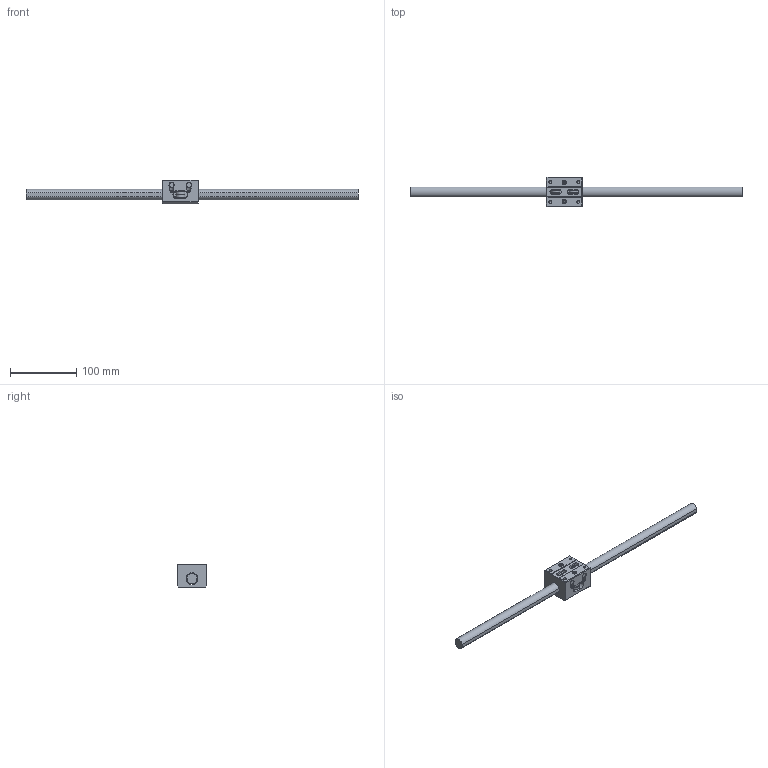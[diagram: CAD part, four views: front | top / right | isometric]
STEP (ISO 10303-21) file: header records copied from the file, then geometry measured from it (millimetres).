
FILE_DESCRIPTION((''),'2;1');
FILE_NAME('D:\製品 (図面)\カタログ用3D\リニアガイド関連\STEP形式\LT\LT16.stp','2010-06-02T16:04:30',('Tsuchiya'),(''),'Autodesk Inventor 10','Autodesk Inventor 10','');
FILE_SCHEMA(('AUTOMOTIVE_DESIGN { 1 0 10303 214 1 1 1 1 }'));
Length unit declared in the file: millimetre
Products named in the file (3): LT16; LT161; LT162
Assembly tree (2 placements, depth 2):
  LT16
    LT161
    LT162
Bounding box: 500 x 45 x 36 mm (x, y, z)
Volume: 159450.6 mm3; surface area: 47752.1 mm2
Topology: 2 solids, 2 shells, 251 faces, 622 edges, 396 vertices
Faces by surface type: bspline 103, plane 77, cylinder 41, cone 26, torus 4
Full cylindrical faces by diameter (mm): 4 x1, 4.134 x2, 5 x3, 5.5 x4, 6.5 x4, 8 x5, 13 x3, 14 x2, 15 x2, 18 x1
Entity records: 8469 total; most frequent: CARTESIAN_POINT 3506, ORIENTED_EDGE 948, DIRECTION 892, EDGE_CURVE 474, EDGE_LOOP 408, AXIS2_PLACEMENT_3D 353, VERTEX_POINT 350, FACE_OUTER_BOUND 251
